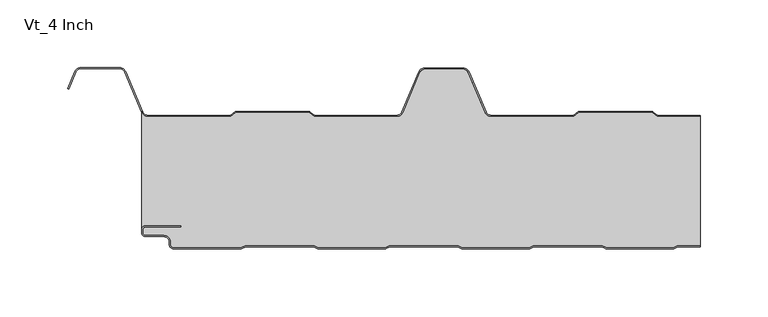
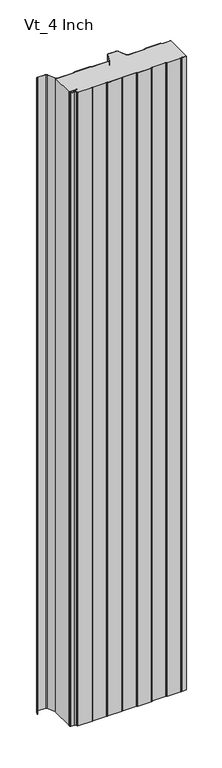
"""IFC4 building model written with IfcOpenShell, lengths in millimetres: plate geometry, AWIP_R18_CP_HR5_Vt_Roof Panel : Vt_4 Inch."""

from ifc_helpers import new_model, si_unit, point, frame, frame_2d, origin, origin_with_axes, place, context, project, spatial, polyline, circle_curve, trimmed, segment, composite_curve, outline, extrude, source, transform, mapped, element, save
from ifc_brep_helpers import plane_surface, cylinder_surface, revolved_surface, advanced_brep


def vt_4_inch_4c3a3e69(model_context):
    return source(origin(), model_context, "Body", "SolidModel", [
        extrude(outline(composite_curve([segment(trimmed(circle_curve(frame_2d((206.3079976, -1.0)), 2.5), [point((206.3079976, 1.5))], [point((205.316517, 1.2949872))], True, "CARTESIAN"), True, "CONTINUOUS"), segment(polyline([(205.316517, 1.2949872), (202.9264178, 0.2624164)]), True, "CONTINUOUS"), segment(trimmed(circle_curve(frame_2d((201.6573227, 3.2)), 3.2), [point((202.9264178, 0.2624164))], [point((201.6573227, 0.0))], False, "CARTESIAN"), True, "CONTINUOUS"), segment(polyline([(201.6573227, 0.0), (152.7426776, 0.0)]), True, "CONTINUOUS"), segment(trimmed(circle_curve(frame_2d((152.7426776, 3.2)), 3.2), [point((152.7426776, 0.0))], [point((151.4735825, 0.2624164))], False, "CARTESIAN"), True, "CONTINUOUS"), segment(polyline([(151.4735825, 0.2624164), (149.0834833, 1.2949872)]), True, "CONTINUOUS"), segment(trimmed(circle_curve(frame_2d((148.0920027, -1.0)), 2.5), [point((149.0834833, 1.2949872))], [point((148.0920027, 1.5))], True, "CARTESIAN"), True, "CONTINUOUS"), segment(polyline([(148.0920027, 1.5), (99.7079976, 1.5)]), True, "CONTINUOUS"), segment(trimmed(circle_curve(frame_2d((99.7079976, -1.0)), 2.5), [point((99.7079976, 1.5))], [point((98.716517, 1.2949872))], True, "CARTESIAN"), True, "CONTINUOUS"), segment(polyline([(98.716517, 1.2949872), (96.3264178, 0.2624164)]), True, "CONTINUOUS"), segment(trimmed(circle_curve(frame_2d((95.0573227, 3.2)), 3.2), [point((96.3264178, 0.2624164))], [point((95.0573227, 0.0))], False, "CARTESIAN"), True, "CONTINUOUS"), segment(polyline([(95.0573227, 0.0), (46.1426776, 0.0)]), True, "CONTINUOUS"), segment(trimmed(circle_curve(frame_2d((46.1426776, 3.2)), 3.2), [point((46.1426776, 0.0))], [point((44.8735825, 0.2624164))], False, "CARTESIAN"), True, "CONTINUOUS"), segment(polyline([(44.8735825, 0.2624164), (42.4834833, 1.2949872)]), True, "CONTINUOUS"), segment(trimmed(circle_curve(frame_2d((41.4920027, -1.0)), 2.5), [point((42.4834833, 1.2949872))], [point((41.4920027, 1.5))], True, "CARTESIAN"), True, "CONTINUOUS"), segment(polyline([(41.4920027, 1.5), (-6.8920024, 1.5)]), True, "CONTINUOUS"), segment(trimmed(circle_curve(frame_2d((-6.8920024, -1.0)), 2.5), [point((-6.8920024, 1.5))], [point((-7.883483, 1.2949872))], True, "CARTESIAN"), True, "CONTINUOUS"), segment(polyline([(-7.883483, 1.2949872), (-10.2735822, 0.2624164)]), True, "CONTINUOUS"), segment(trimmed(circle_curve(frame_2d((-11.5426773, 3.2)), 3.2), [point((-10.2735822, 0.2624164))], [point((-11.5426773, 0.0))], False, "CARTESIAN"), True, "CONTINUOUS"), segment(polyline([(-11.5426773, 0.0), (-60.4573224, 0.0)]), True, "CONTINUOUS"), segment(trimmed(circle_curve(frame_2d((-60.4573224, 3.2)), 3.2), [point((-60.4573224, 0.0))], [point((-61.7264175, 0.2624164))], False, "CARTESIAN"), True, "CONTINUOUS"), segment(polyline([(-61.7264175, 0.2624164), (-64.1165167, 1.2949872)]), True, "CONTINUOUS"), segment(trimmed(circle_curve(frame_2d((-65.1079973, -1.0)), 2.5), [point((-64.1165167, 1.2949872))], [point((-65.1079973, 1.5))], True, "CARTESIAN"), True, "CONTINUOUS"), segment(polyline([(-65.1079973, 1.5), (-113.4920024, 1.5)]), True, "CONTINUOUS"), segment(trimmed(circle_curve(frame_2d((-113.4920024, -1.0)), 2.5), [point((-113.4920024, 1.5))], [point((-114.483483, 1.2949872))], True, "CARTESIAN"), True, "CONTINUOUS"), segment(polyline([(-114.483483, 1.2949872), (-116.8735822, 0.2624164)]), True, "CONTINUOUS"), segment(trimmed(circle_curve(frame_2d((-118.1426773, 3.2)), 3.2), [point((-116.8735822, 0.2624164))], [point((-118.1426773, 0.0))], False, "CARTESIAN"), True, "CONTINUOUS"), segment(polyline([(-118.1426773, 0.0), (-167.8999998, 0.0)]), True, "CONTINUOUS"), segment(trimmed(circle_curve(frame_2d((-167.8999998, 3.0)), 3.0), [point((-167.8999998, 0.0))], [point((-170.8999998, 3.0))], False, "CARTESIAN"), True, "CONTINUOUS"), segment(polyline([(-170.8999998, 3.0), (-170.8999998, 5.0)]), True, "CONTINUOUS"), segment(trimmed(circle_curve(frame_2d((-174.8999998, 5.0)), 4.0), [point((-170.8999998, 5.0))], [point((-174.8999998, 9.0))], True, "CARTESIAN"), True, "CONTINUOUS"), segment(polyline([(-174.8999998, 9.0), (-188.41581, 9.0)]), True, "CONTINUOUS"), segment(trimmed(circle_curve(frame_2d((-188.41581, 12.0)), 3.0), [point((-188.41581, 9.0))], [point((-191.41581, 12.0))], False, "CARTESIAN"), True, "CONTINUOUS"), segment(polyline([(-191.41581, 12.0), (-191.41581, 14.0)]), True, "CONTINUOUS"), segment(trimmed(circle_curve(frame_2d((-188.41581, 14.0)), 3.0), [point((-191.41581, 14.0))], [point((-188.41581, 17.0))], False, "CARTESIAN"), True, "CONTINUOUS"), segment(polyline([(-188.41581, 17.0), (-162.474768, 17.0), (-162.474768, 16.2), (-188.41581, 16.2)]), True, "CONTINUOUS"), segment(trimmed(circle_curve(frame_2d((-188.41581, 14.0)), 2.2), [point((-188.41581, 16.2))], [point((-190.61581, 14.0))], True, "CARTESIAN"), True, "CONTINUOUS"), segment(polyline([(-190.61581, 14.0), (-190.61581, 12.0)]), True, "CONTINUOUS"), segment(trimmed(circle_curve(frame_2d((-188.41581, 12.0)), 2.2), [point((-190.61581, 12.0))], [point((-188.41581, 9.8))], True, "CARTESIAN"), True, "CONTINUOUS"), segment(polyline([(-188.41581, 9.8), (-174.8999998, 9.8)]), True, "CONTINUOUS"), segment(trimmed(circle_curve(frame_2d((-174.8999998, 5.0)), 4.8), [point((-174.8999998, 9.8))], [point((-170.0999998, 5.0))], False, "CARTESIAN"), True, "CONTINUOUS"), segment(polyline([(-170.0999998, 5.0), (-170.0999998, 3.0)]), True, "CONTINUOUS"), segment(trimmed(circle_curve(frame_2d((-167.8999998, 3.0)), 2.2), [point((-170.0999998, 3.0))], [point((-167.8999998, 0.8))], True, "CARTESIAN"), True, "CONTINUOUS"), segment(polyline([(-167.8999998, 0.8), (-118.1426773, 0.8)]), True, "CONTINUOUS"), segment(trimmed(circle_curve(frame_2d((-118.1426773, 3.2)), 2.4), [point((-118.1426773, 0.8))], [point((-117.190856, 0.9968123))], True, "CARTESIAN"), True, "CONTINUOUS"), segment(polyline([(-117.190856, 0.9968123), (-114.8007568, 2.0293831)]), True, "CONTINUOUS"), segment(trimmed(circle_curve(frame_2d((-113.4920024, -1.0)), 3.3), [point((-114.8007568, 2.0293831))], [point((-113.4920024, 2.3))], False, "CARTESIAN"), True, "CONTINUOUS"), segment(polyline([(-113.4920024, 2.3), (-65.1079973, 2.3)]), True, "CONTINUOUS"), segment(trimmed(circle_curve(frame_2d((-65.1079973, -1.0)), 3.3), [point((-65.1079973, 2.3))], [point((-63.7992429, 2.0293831))], False, "CARTESIAN"), True, "CONTINUOUS"), segment(polyline([(-63.7992429, 2.0293831), (-61.4091437, 0.9968123)]), True, "CONTINUOUS"), segment(trimmed(circle_curve(frame_2d((-60.4573224, 3.2)), 2.4), [point((-61.4091437, 0.9968123))], [point((-60.4573224, 0.8))], True, "CARTESIAN"), True, "CONTINUOUS"), segment(polyline([(-60.4573224, 0.8), (-11.5426773, 0.8)]), True, "CONTINUOUS"), segment(trimmed(circle_curve(frame_2d((-11.5426773, 3.2)), 2.4), [point((-11.5426773, 0.8))], [point((-10.590856, 0.9968123))], True, "CARTESIAN"), True, "CONTINUOUS"), segment(polyline([(-10.590856, 0.9968123), (-8.2007568, 2.0293831)]), True, "CONTINUOUS"), segment(trimmed(circle_curve(frame_2d((-6.8920024, -1.0)), 3.3), [point((-8.2007568, 2.0293831))], [point((-6.8920024, 2.3))], False, "CARTESIAN"), True, "CONTINUOUS"), segment(polyline([(-6.8920024, 2.3), (41.4920027, 2.3)]), True, "CONTINUOUS"), segment(trimmed(circle_curve(frame_2d((41.4920027, -1.0)), 3.3), [point((41.4920027, 2.3))], [point((42.8007571, 2.0293831))], False, "CARTESIAN"), True, "CONTINUOUS"), segment(polyline([(42.8007571, 2.0293831), (45.1908563, 0.9968123)]), True, "CONTINUOUS"), segment(trimmed(circle_curve(frame_2d((46.1426776, 3.2)), 2.4), [point((45.1908563, 0.9968123))], [point((46.1426776, 0.8))], True, "CARTESIAN"), True, "CONTINUOUS"), segment(polyline([(46.1426776, 0.8), (95.0573227, 0.8)]), True, "CONTINUOUS"), segment(trimmed(circle_curve(frame_2d((95.0573227, 3.2)), 2.4), [point((95.0573227, 0.8))], [point((96.009144, 0.9968123))], True, "CARTESIAN"), True, "CONTINUOUS"), segment(polyline([(96.009144, 0.9968123), (98.3992432, 2.0293831)]), True, "CONTINUOUS"), segment(trimmed(circle_curve(frame_2d((99.7079976, -1.0)), 3.3), [point((98.3992432, 2.0293831))], [point((99.7079976, 2.3))], False, "CARTESIAN"), True, "CONTINUOUS"), segment(polyline([(99.7079976, 2.3), (148.0920027, 2.3)]), True, "CONTINUOUS"), segment(trimmed(circle_curve(frame_2d((148.0920027, -1.0)), 3.3), [point((148.0920027, 2.3))], [point((149.4007571, 2.0293831))], False, "CARTESIAN"), True, "CONTINUOUS"), segment(polyline([(149.4007571, 2.0293831), (151.7908563, 0.9968123)]), True, "CONTINUOUS"), segment(trimmed(circle_curve(frame_2d((152.7426776, 3.2)), 2.4), [point((151.7908563, 0.9968123))], [point((152.7426776, 0.8))], True, "CARTESIAN"), True, "CONTINUOUS"), segment(polyline([(152.7426776, 0.8), (201.6573227, 0.8)]), True, "CONTINUOUS"), segment(trimmed(circle_curve(frame_2d((201.6573227, 3.2)), 2.4), [point((201.6573227, 0.8))], [point((202.609144, 0.9968123))], True, "CARTESIAN"), True, "CONTINUOUS"), segment(polyline([(202.609144, 0.9968123), (204.9992432, 2.0293831)]), True, "CONTINUOUS"), segment(trimmed(circle_curve(frame_2d((206.3079976, -1.0)), 3.3), [point((204.9992432, 2.0293831))], [point((206.3079976, 2.3))], False, "CARTESIAN"), True, "CONTINUOUS"), segment(polyline([(206.3079976, 2.3), (221.9999998, 2.3), (221.9999998, 1.5), (206.3079976, 1.5)]), True, "CONTINUOUS")], self_intersect=False)), origin_with_axes(), (0.0, 0.0, 1.0), 2400.0),
        advanced_brep(
        [(-65.1249438, 2.3, 2400.0), (-113.508949, 2.3, 2400.0), (-113.508949, 2.3, 0.0), (-65.1249438, 2.3, 0.0), (190.4999573, 98.015881, 0.0), (190.4999573, 98.015881, 2400.0), (221.9999998, 98.015881, 2400.0), (221.9999998, 98.015881, 0.0), (189.7385671, 98.2621803, 2400.0), (189.7385671, 98.2621803, 0.0), (186.226433, 100.8000003, 2400.0), (186.226433, 100.8000003, 0.0), (132.0235518, 100.8000003, 2400.0), (132.0235518, 100.8000003, 0.0), (128.5114178, 98.2621802, 2400.0), (128.5114178, 98.2621802, 0.0), (127.7500279, 98.015881, 2400.0), (127.7500279, 98.015881, 0.0), (66.901273, 98.015881, 2400.0), (66.901273, 98.015881, 0.0), (62.4828367, 100.940402, 2400.0), (62.4828367, 100.940402, 0.0), (49.967106, 130.4261781, 2400.0), (49.967106, 130.4261781, 0.0), (46.1009743, 132.9851339, 2400.0), (46.1009743, 132.9851339, 0.0), (18.399026, 132.9851339, 2400.0), (14.5328944, 130.4261781, 2400.0), (2.0171635, 100.9404018, 2400.0), (-2.4012727, 98.0158809, 2400.0), (-63.2500233, 98.0158809, 2400.0), (-64.0114131, 98.26218, 2400.0), (-67.5235476, 100.8000003, 2400.0), (-121.7264279, 100.8000003, 2400.0), (-125.2385625, 98.2621799, 2400.0), (-125.9999524, 98.0158808, 2400.0), (-186.7838692, 98.0158808, 2400.0), (-191.4327566, 101.6209553, 2400.0), (-191.4327566, 14.0, 2400.0), (-188.4327566, 17.0, 2400.0), (-162.4917146, 17.0, 2400.0), (-162.4917146, 16.2, 2400.0), (-188.4327566, 16.2, 2400.0), (-190.6327566, 14.0, 2400.0), (-190.6327566, 12.0, 2400.0), (-188.4327566, 9.8, 2400.0), (-174.9169464, 9.8, 2400.0), (-170.1169464, 5.0, 2400.0), (-170.1169464, 3.0, 2400.0), (-167.9169464, 0.8, 2400.0), (-118.1596239, 0.8, 2400.0), (-117.2078025, 0.9968123, 2400.0), (-114.8177033, 2.0293831, 2400.0), (-63.8161895, 2.0293831, 2400.0), (-61.4260903, 0.9968123, 2400.0), (-60.474269, 0.8, 2400.0), (-11.5596239, 0.8, 2400.0), (-10.6078025, 0.9968123, 2400.0), (-8.2177033, 2.0293831, 2400.0), (-6.908949, 2.3, 2400.0), (41.4750562, 2.3, 2400.0), (42.7838105, 2.0293831, 2400.0), (45.1739097, 0.9968123, 2400.0), (46.125731, 0.8, 2400.0), (95.0403761, 0.8, 2400.0), (95.9921975, 0.9968123, 2400.0), (98.3822967, 2.0293831, 2400.0), (99.691051, 2.3, 2400.0), (148.0750562, 2.3, 2400.0), (149.3838105, 2.0293831, 2400.0), (151.7739097, 0.9968123, 2400.0), (152.725731, 0.8, 2400.0), (201.6403761, 0.8, 2400.0), (202.5921975, 0.9968123, 2400.0), (204.9822967, 2.0293831, 2400.0), (206.291051, 2.3, 2400.0), (221.9999998, 2.3, 2400.0), (221.9999998, 2.3, 0.0), (18.399026, 132.9851339, 0.0), (14.5328944, 130.4261781, 0.0), (2.0171635, 100.9404018, 0.0), (-2.4012727, 98.0158809, 0.0), (-63.2500233, 98.0158809, 0.0), (-64.0114131, 98.26218, 0.0), (-67.5235476, 100.8000003, 0.0), (-121.7264279, 100.8000003, 0.0), (-125.2385625, 98.2621799, 0.0), (-125.9999524, 98.0158808, 0.0), (-186.7838692, 98.0158808, 0.0), (-191.4327566, 101.6209553, 0.0), (-191.4327566, 14.0, 0.0), (-188.4327566, 17.0, 0.0), (-162.4917146, 17.0, 0.0), (-162.4917146, 16.2, 0.0), (-188.4327566, 16.2, 0.0), (-190.6327566, 14.0, 0.0), (-190.6327566, 12.0, 0.0), (-188.4327566, 9.8, 0.0), (-174.9169464, 9.8, 0.0), (-170.1169464, 5.0, 0.0), (-170.1169464, 3.0, 0.0), (-167.9169464, 0.8, 0.0), (-118.1596239, 0.8, 0.0), (-117.2078025, 0.9968123, 0.0), (-114.8177033, 2.0293831, 0.0), (-63.8161895, 2.0293831, 0.0), (-61.4260903, 0.9968123, 0.0), (-60.474269, 0.8, 0.0), (-11.5596239, 0.8, 0.0), (-10.6078025, 0.9968123, 0.0), (-8.2177033, 2.0293831, 0.0), (-6.908949, 2.3, 0.0), (41.4750562, 2.3, 0.0), (42.7838105, 2.0293831, 0.0), (45.1739097, 0.9968123, 0.0), (46.125731, 0.8, 0.0), (95.0403761, 0.8, 0.0), (95.9921975, 0.9968123, 0.0), (206.291051, 2.3, 0.0), (204.9822967, 2.0293831, 0.0), (202.5921975, 0.9968123, 0.0), (201.6403761, 0.8, 0.0), (152.725731, 0.8, 0.0), (151.7739097, 0.9968123, 0.0), (149.3838105, 2.0293831, 0.0), (148.0750562, 2.3, 0.0), (99.691051, 2.3, 0.0), (98.3822967, 2.0293831, 0.0)],
        [
            (0, 1),
            (1, 2),
            (2, 3),
            (3, 0),
            (4, 5),
            (5, 6),
            (6, 7),
            (7, 4),
            (8, 5, circle_curve(frame((190.4999573, 99.3158817, 2400.0), z_axis=(0.0, 0.0, 1.0), x_axis=(1.0, 0.0, 0.0)), 1.3000007)),
            (4, 9, circle_curve(frame((190.4999573, 99.3158817, 0.0), z_axis=(0.0, 0.0, -1.0), x_axis=(1.0, 0.0, 0.0)), 1.3000007)),
            (9, 8),
            (10, 8),
            (9, 11),
            (11, 10),
            (12, 10),
            (11, 13),
            (13, 12),
            (14, 12),
            (13, 15),
            (15, 14),
            (16, 14, circle_curve(frame((127.7500279, 99.315881, 2400.0), z_axis=(0.0, 0.0, 1.0), x_axis=(1.0, 0.0, 0.0)), 1.3)),
            (15, 17, circle_curve(frame((127.7500279, 99.315881, 0.0), z_axis=(0.0, 0.0, -1.0), x_axis=(1.0, 0.0, 0.0)), 1.3)),
            (17, 16),
            (18, 16),
            (17, 19),
            (19, 18),
            (20, 18, circle_curve(frame((66.901273, 102.8158812, 2400.0), z_axis=(0.0, 0.0, 1.0), x_axis=(1.0, 0.0, 0.0)), 4.8000002)),
            (19, 21, circle_curve(frame((66.901273, 102.8158812, 0.0), z_axis=(0.0, 0.0, -1.0), x_axis=(1.0, 0.0, 0.0)), 4.8000002)),
            (21, 20),
            (22, 20),
            (21, 23),
            (23, 22),
            (24, 22, circle_curve(frame((46.1009743, 128.7851339, 2400.0), z_axis=(0.0, 0.0, -1.0), x_axis=(1.0, 0.0, 0.0)), 4.2)),
            (23, 25, circle_curve(frame((46.1009743, 128.7851339, 0.0), z_axis=(0.0, 0.0, 1.0), x_axis=(1.0, 0.0, 0.0)), 4.2)),
            (25, 24),
            (24, 26),
            (26, 27, circle_curve(frame((18.399026, 128.7851339, 2400.0), z_axis=(0.0, 0.0, 1.0), x_axis=(1.0, 0.0, 0.0)), 4.2)),
            (27, 28),
            (28, 29, circle_curve(frame((-2.4012727, 102.8158809, 2400.0), z_axis=(0.0, 0.0, -1.0), x_axis=(1.0, 0.0, 0.0)), 4.8000001)),
            (29, 30),
            (30, 31, circle_curve(frame((-63.2500233, 99.3158809, 2400.0), z_axis=(0.0, 0.0, -1.0), x_axis=(1.0, 0.0, 0.0)), 1.3)),
            (31, 32),
            (32, 33),
            (33, 34),
            (34, 35, circle_curve(frame((-125.9999524, 99.3158808, 2400.0), z_axis=(0.0, 0.0, -1.0), x_axis=(1.0, 0.0, 0.0)), 1.3)),
            (35, 36),
            (36, 37, circle_curve(frame((-186.7838692, 102.8158808, 2400.0), z_axis=(0.0, 0.0, -1.0), x_axis=(1.0, 0.0, 0.0)), 4.8)),
            (37, 38),
            (38, 39, circle_curve(frame((-188.4327566, 14.0, 2400.0), z_axis=(0.0, 0.0, -1.0), x_axis=(1.0, 0.0, 0.0)), 3.0)),
            (39, 40),
            (40, 41),
            (41, 42),
            (42, 43, circle_curve(frame((-188.4327566, 14.0, 2400.0), z_axis=(0.0, 0.0, 1.0), x_axis=(1.0, 0.0, 0.0)), 2.2)),
            (43, 44),
            (44, 45, circle_curve(frame((-188.4327566, 12.0, 2400.0), z_axis=(0.0, 0.0, 1.0), x_axis=(1.0, 0.0, 0.0)), 2.2)),
            (45, 46),
            (46, 47, circle_curve(frame((-174.9169464, 5.0, 2400.0), z_axis=(0.0, 0.0, -1.0), x_axis=(1.0, 0.0, 0.0)), 4.8)),
            (47, 48),
            (48, 49, circle_curve(frame((-167.9169464, 3.0, 2400.0), z_axis=(0.0, 0.0, 1.0), x_axis=(1.0, 0.0, 0.0)), 2.2)),
            (49, 50),
            (50, 51, circle_curve(frame((-118.1596239, 3.2, 2400.0), z_axis=(0.0, 0.0, 1.0), x_axis=(1.0, 0.0, 0.0)), 2.4)),
            (51, 52),
            (52, 1, circle_curve(frame((-113.508949, -1.0, 2400.0), z_axis=(0.0, 0.0, -1.0), x_axis=(1.0, 0.0, 0.0)), 3.3)),
            (0, 53, circle_curve(frame((-65.1249438, -1.0, 2400.0), z_axis=(0.0, 0.0, -1.0), x_axis=(1.0, 0.0, 0.0)), 3.3)),
            (53, 54),
            (54, 55, circle_curve(frame((-60.474269, 3.2, 2400.0), z_axis=(0.0, 0.0, 1.0), x_axis=(1.0, 0.0, 0.0)), 2.4)),
            (55, 56),
            (56, 57, circle_curve(frame((-11.5596239, 3.2, 2400.0), z_axis=(0.0, 0.0, 1.0), x_axis=(1.0, 0.0, 0.0)), 2.4)),
            (57, 58),
            (58, 59, circle_curve(frame((-6.908949, -1.0, 2400.0), z_axis=(0.0, 0.0, -1.0), x_axis=(1.0, 0.0, 0.0)), 3.3)),
            (59, 60),
            (60, 61, circle_curve(frame((41.4750562, -1.0, 2400.0), z_axis=(0.0, 0.0, -1.0), x_axis=(1.0, 0.0, 0.0)), 3.3)),
            (61, 62),
            (62, 63, circle_curve(frame((46.125731, 3.2, 2400.0), z_axis=(0.0, 0.0, 1.0), x_axis=(1.0, 0.0, 0.0)), 2.4)),
            (63, 64),
            (64, 65, circle_curve(frame((95.0403761, 3.2, 2400.0), z_axis=(0.0, 0.0, 1.0), x_axis=(1.0, 0.0, 0.0)), 2.4)),
            (65, 66),
            (66, 67, circle_curve(frame((99.691051, -1.0, 2400.0), z_axis=(0.0, 0.0, -1.0), x_axis=(1.0, 0.0, 0.0)), 3.3)),
            (67, 68),
            (68, 69, circle_curve(frame((148.0750562, -1.0, 2400.0), z_axis=(0.0, 0.0, -1.0), x_axis=(1.0, 0.0, 0.0)), 3.3)),
            (69, 70),
            (70, 71, circle_curve(frame((152.725731, 3.2, 2400.0), z_axis=(0.0, 0.0, 1.0), x_axis=(1.0, 0.0, 0.0)), 2.4)),
            (71, 72),
            (72, 73, circle_curve(frame((201.6403761, 3.2, 2400.0), z_axis=(0.0, 0.0, 1.0), x_axis=(1.0, 0.0, 0.0)), 2.4)),
            (73, 74),
            (74, 75, circle_curve(frame((206.291051, -1.0, 2400.0), z_axis=(0.0, 0.0, -1.0), x_axis=(1.0, 0.0, 0.0)), 3.3)),
            (75, 76),
            (76, 6),
            (76, 77),
            (77, 7),
            (26, 78),
            (78, 79, circle_curve(frame((18.399026, 128.7851339, 0.0), z_axis=(0.0, 0.0, 1.0), x_axis=(1.0, 0.0, 0.0)), 4.2)),
            (79, 27),
            (79, 80),
            (80, 28),
            (80, 81, circle_curve(frame((-2.4012727, 102.8158809, 0.0), z_axis=(0.0, 0.0, -1.0), x_axis=(1.0, 0.0, 0.0)), 4.8000001)),
            (81, 29),
            (81, 82),
            (82, 30),
            (82, 83, circle_curve(frame((-63.2500233, 99.3158809, 0.0), z_axis=(0.0, 0.0, -1.0), x_axis=(1.0, 0.0, 0.0)), 1.3)),
            (83, 31),
            (83, 84),
            (84, 32),
            (84, 85),
            (85, 33),
            (85, 86),
            (86, 34),
            (86, 87, circle_curve(frame((-125.9999524, 99.3158808, 0.0), z_axis=(0.0, 0.0, -1.0), x_axis=(1.0, 0.0, 0.0)), 1.3)),
            (87, 35),
            (87, 88),
            (88, 36),
            (88, 89, circle_curve(frame((-186.7838692, 102.8158808, 0.0), z_axis=(0.0, 0.0, -1.0), x_axis=(1.0, 0.0, 0.0)), 4.8)),
            (89, 37),
            (89, 90),
            (90, 38),
            (90, 91, circle_curve(frame((-188.4327566, 14.0, 0.0), z_axis=(0.0, 0.0, -1.0), x_axis=(1.0, 0.0, 0.0)), 3.0)),
            (91, 39),
            (91, 92),
            (92, 40),
            (92, 93),
            (93, 41),
            (93, 94),
            (94, 42),
            (94, 95, circle_curve(frame((-188.4327566, 14.0, 0.0), z_axis=(0.0, 0.0, 1.0), x_axis=(1.0, 0.0, 0.0)), 2.2)),
            (95, 43),
            (95, 96),
            (96, 44),
            (96, 97, circle_curve(frame((-188.4327566, 12.0, 0.0), z_axis=(0.0, 0.0, 1.0), x_axis=(1.0, 0.0, 0.0)), 2.2)),
            (97, 45),
            (97, 98),
            (98, 46),
            (98, 99, circle_curve(frame((-174.9169464, 5.0, 0.0), z_axis=(0.0, 0.0, -1.0), x_axis=(1.0, 0.0, 0.0)), 4.8)),
            (99, 47),
            (99, 100),
            (100, 48),
            (100, 101, circle_curve(frame((-167.9169464, 3.0, 0.0), z_axis=(0.0, 0.0, 1.0), x_axis=(1.0, 0.0, 0.0)), 2.2)),
            (101, 49),
            (101, 102),
            (102, 50),
            (102, 103, circle_curve(frame((-118.1596239, 3.2, 0.0), z_axis=(0.0, 0.0, 1.0), x_axis=(1.0, 0.0, 0.0)), 2.4)),
            (103, 51),
            (103, 104),
            (104, 52),
            (104, 2, circle_curve(frame((-113.508949, -1.0, 0.0), z_axis=(0.0, 0.0, -1.0), x_axis=(1.0, 0.0, 0.0)), 3.3)),
            (3, 105, circle_curve(frame((-65.1249438, -1.0, 0.0), z_axis=(0.0, 0.0, -1.0), x_axis=(1.0, 0.0, 0.0)), 3.3)),
            (105, 53),
            (105, 106),
            (106, 54),
            (106, 107, circle_curve(frame((-60.474269, 3.2, 0.0), z_axis=(0.0, 0.0, 1.0), x_axis=(1.0, 0.0, 0.0)), 2.4)),
            (107, 55),
            (107, 108),
            (108, 56),
            (108, 109, circle_curve(frame((-11.5596239, 3.2, 0.0), z_axis=(0.0, 0.0, 1.0), x_axis=(1.0, 0.0, 0.0)), 2.4)),
            (109, 57),
            (109, 110),
            (110, 58),
            (110, 111, circle_curve(frame((-6.908949, -1.0, 0.0), z_axis=(0.0, 0.0, -1.0), x_axis=(1.0, 0.0, 0.0)), 3.3)),
            (111, 59),
            (111, 112),
            (112, 60),
            (112, 113, circle_curve(frame((41.4750562, -1.0, 0.0), z_axis=(0.0, 0.0, -1.0), x_axis=(1.0, 0.0, 0.0)), 3.3)),
            (113, 61),
            (113, 114),
            (114, 62),
            (114, 115, circle_curve(frame((46.125731, 3.2, 0.0), z_axis=(0.0, 0.0, 1.0), x_axis=(1.0, 0.0, 0.0)), 2.4)),
            (115, 63),
            (115, 116),
            (116, 64),
            (116, 117, circle_curve(frame((95.0403761, 3.2, 0.0), z_axis=(0.0, 0.0, 1.0), x_axis=(1.0, 0.0, 0.0)), 2.4)),
            (117, 65),
            (77, 118),
            (118, 119, circle_curve(frame((206.291051, -1.0, 0.0), z_axis=(0.0, 0.0, 1.0), x_axis=(1.0, 0.0, 0.0)), 3.3)),
            (119, 120),
            (120, 121, circle_curve(frame((201.6403761, 3.2, 0.0), z_axis=(0.0, 0.0, -1.0), x_axis=(1.0, 0.0, 0.0)), 2.4)),
            (121, 122),
            (122, 123, circle_curve(frame((152.725731, 3.2, 0.0), z_axis=(0.0, 0.0, -1.0), x_axis=(1.0, 0.0, 0.0)), 2.4)),
            (123, 124),
            (124, 125, circle_curve(frame((148.0750562, -1.0, 0.0), z_axis=(0.0, 0.0, 1.0), x_axis=(1.0, 0.0, 0.0)), 3.3)),
            (125, 126),
            (126, 127, circle_curve(frame((99.691051, -1.0, 0.0), z_axis=(0.0, 0.0, 1.0), x_axis=(1.0, 0.0, 0.0)), 3.3)),
            (127, 117),
            (78, 25),
            (127, 66),
            (126, 67),
            (125, 68),
            (124, 69),
            (123, 70),
            (122, 71),
            (121, 72),
            (120, 73),
            (119, 74),
            (118, 75),
        ],
        [
            plane_surface(frame((-113.508949, 2.3, 2400.0), z_axis=(0.0, -1.0, 0.0), x_axis=(0.0, 0.0, -1.0))),
            plane_surface(frame((251.3487273, 98.015881, 2400.0), z_axis=(0.0, 1.0, 0.0), x_axis=(0.0, 0.0, -1.0))),
            revolved_surface(polyline([(191.799958, 99.3158817, 0.0), (191.799958, 99.3158817, 2400.0)]), (190.4999573, 99.3158817, 2400.0), (0.0, 0.0, -1.0)),
            plane_surface(frame((189.7385671, 98.2621803, 2400.0), z_axis=(0.5856844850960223, 0.8105391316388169, 0.0), x_axis=(0.0, 0.0, -1.0))),
            plane_surface(frame((186.226433, 100.8000003, 2400.0), z_axis=(0.0, 1.0, 0.0), x_axis=(0.0, 0.0, -1.0))),
            plane_surface(frame((132.0235518, 100.8000003, 2400.0), z_axis=(-0.5856845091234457, 0.8105391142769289, 0.0), x_axis=(0.0, 0.0, -1.0))),
            revolved_surface(polyline([(129.0500279, 99.315881, 0.0), (129.0500279, 99.315881, 2400.0)]), (127.7500279, 99.315881, 2400.0), (0.0, 0.0, -1.0)),
            plane_surface(frame((127.7500279, 98.015881, 2400.0), z_axis=(0.0, 1.0, 0.0), x_axis=(0.0, 0.0, -1.0))),
            revolved_surface(polyline([(71.7012732, 102.8158812, 0.0), (71.7012732, 102.8158812, 2400.0)]), (66.901273, 102.8158812, 2400.0), (0.0, 0.0, -1.0)),
            plane_surface(frame((62.4828367, 100.940402, 2400.0), z_axis=(0.920507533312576, 0.3907248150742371, 0.0), x_axis=(0.0, 0.0, -1.0))),
            cylinder_surface(frame((46.1009743, 128.7851339, 2400.0), z_axis=(0.0, 0.0, 1.0), x_axis=(1.0, 0.0, 0.0)), 4.2),
            plane_surface(frame((286.0000002, 0.8, 2400.0), z_axis=(0.0, 0.0, 1.0), x_axis=(0.0, 1.0, 0.0))),
            plane_surface(frame((221.9999998, 166.6, 2400.0), z_axis=(1.0, 0.0, 0.0), x_axis=(0.0, 0.0, -1.0))),
            cylinder_surface(frame((18.399026, 128.7851339, 2400.0), z_axis=(0.0, 0.0, 1.0), x_axis=(1.0, 0.0, 0.0)), 4.2),
            plane_surface(frame((14.5328944, 130.4261781, 2400.0), z_axis=(-0.9205075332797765, 0.39072481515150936, 0.0), x_axis=(0.0, 0.0, -1.0))),
            revolved_surface(polyline([(2.3987274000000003, 102.8158809, 0.0), (2.3987274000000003, 102.8158809, 2400.0)]), (-2.4012727, 102.8158809, 2400.0), (0.0, 0.0, -1.0)),
            plane_surface(frame((-2.4012727, 98.0158809, 2400.0), z_axis=(0.0, 1.0, 0.0), x_axis=(0.0, 0.0, -1.0))),
            revolved_surface(polyline([(-61.950023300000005, 99.3158809, 0.0), (-61.950023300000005, 99.3158809, 2400.0)]), (-63.2500233, 99.3158809, 2400.0), (0.0, 0.0, -1.0)),
            plane_surface(frame((-64.0114131, 98.26218, 2400.0), z_axis=(0.5856844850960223, 0.8105391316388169, 0.0), x_axis=(0.0, 0.0, -1.0))),
            plane_surface(frame((-67.5235476, 100.8000003, 2400.0), z_axis=(0.0, 1.0, 0.0), x_axis=(0.0, 0.0, -1.0))),
            plane_surface(frame((-121.7264279, 100.8000003, 2400.0), z_axis=(-0.5856844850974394, 0.8105391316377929, 0.0), x_axis=(0.0, 0.0, -1.0))),
            revolved_surface(polyline([(-124.6999524, 99.3158808, 0.0), (-124.6999524, 99.3158808, 2400.0)]), (-125.9999524, 99.3158808, 2400.0), (0.0, 0.0, -1.0)),
            plane_surface(frame((-125.9999524, 98.0158808, 2400.0), z_axis=(0.0, 1.0, 0.0), x_axis=(0.0, 0.0, -1.0))),
            revolved_surface(polyline([(-181.9838692, 102.8158808, 0.0), (-181.9838692, 102.8158808, 2400.0)]), (-186.7838692, 102.8158808, 2400.0), (0.0, 0.0, -1.0)),
            plane_surface(frame((-191.4327566, 101.6209553, 2400.0), z_axis=(-1.0, 0.0, 0.0), x_axis=(0.0, 0.0, -1.0))),
            revolved_surface(polyline([(-185.4327566, 14.0, 0.0), (-185.4327566, 14.0, 2400.0)]), (-188.4327566, 14.0, 2400.0), (0.0, 0.0, -1.0)),
            plane_surface(frame((-188.4327566, 17.0, 2400.0), z_axis=(0.0, -1.0, 0.0), x_axis=(0.0, 0.0, -1.0))),
            plane_surface(frame((-162.4917146, 17.0, 2400.0), z_axis=(-1.0, 0.0, 0.0), x_axis=(0.0, 0.0, -1.0))),
            plane_surface(frame((-162.4917146, 16.2, 2400.0), z_axis=(0.0, 1.0, 0.0), x_axis=(0.0, 0.0, -1.0))),
            cylinder_surface(frame((-188.4327566, 14.0, 2400.0), z_axis=(0.0, 0.0, 1.0), x_axis=(1.0, 0.0, 0.0)), 2.2),
            plane_surface(frame((-190.6327566, 14.0, 2400.0), z_axis=(-1.0, 0.0, 0.0), x_axis=(0.0, 0.0, -1.0))),
            cylinder_surface(frame((-188.4327566, 12.0, 2400.0), z_axis=(0.0, 0.0, 1.0), x_axis=(1.0, 0.0, 0.0)), 2.2),
            plane_surface(frame((-188.4327566, 9.8, 2400.0), z_axis=(0.0, -1.0, 0.0), x_axis=(0.0, 0.0, -1.0))),
            revolved_surface(polyline([(-170.1169464, 5.0, 0.0), (-170.1169464, 5.0, 2400.0)]), (-174.9169464, 5.0, 2400.0), (0.0, 0.0, -1.0)),
            plane_surface(frame((-170.1169464, 5.0, 2400.0), z_axis=(-1.0, 0.0, 0.0), x_axis=(0.0, 0.0, -1.0))),
            cylinder_surface(frame((-167.9169464, 3.0, 2400.0), z_axis=(0.0, 0.0, 1.0), x_axis=(1.0, 0.0, 0.0)), 2.2),
            plane_surface(frame((-167.9169464, 0.8, 2400.0), z_axis=(0.0, -1.0, 0.0), x_axis=(0.0, 0.0, -1.0))),
            cylinder_surface(frame((-118.1596239, 3.2, 2400.0), z_axis=(0.0, 0.0, 1.0), x_axis=(1.0, 0.0, 0.0)), 2.4),
            plane_surface(frame((-117.2078025, 0.9968123, 2400.0), z_axis=(0.3965922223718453, -0.9179948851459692, 0.0), x_axis=(0.0, 0.0, -1.0))),
            revolved_surface(polyline([(-110.208949, -1.0, 0.0), (-110.208949, -1.0, 2400.0)]), (-113.508949, -1.0, 2400.0), (0.0, 0.0, -1.0)),
            revolved_surface(polyline([(-61.8249438, -1.0, 0.0), (-61.8249438, -1.0, 2400.0)]), (-65.1249438, -1.0, 2400.0), (0.0, 0.0, -1.0)),
            plane_surface(frame((-63.8161895, 2.0293831, 2400.0), z_axis=(-0.396592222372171, -0.9179948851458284, 0.0), x_axis=(0.0, 0.0, -1.0))),
            cylinder_surface(frame((-60.474269, 3.2, 2400.0), z_axis=(0.0, 0.0, 1.0), x_axis=(1.0, 0.0, 0.0)), 2.4),
            plane_surface(frame((-60.474269, 0.8, 2400.0), z_axis=(0.0, -1.0, 0.0), x_axis=(0.0, 0.0, -1.0))),
            cylinder_surface(frame((-11.5596239, 3.2, 2400.0), z_axis=(0.0, 0.0, 1.0), x_axis=(1.0, 0.0, 0.0)), 2.4),
            plane_surface(frame((-10.6078025, 0.9968123, 2400.0), z_axis=(0.3965922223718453, -0.9179948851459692, 0.0), x_axis=(0.0, 0.0, -1.0))),
            revolved_surface(polyline([(-3.608949, -1.0, 0.0), (-3.608949, -1.0, 2400.0)]), (-6.908949, -1.0, 2400.0), (0.0, 0.0, -1.0)),
            plane_surface(frame((-6.908949, 2.3, 2400.0), z_axis=(0.0, -1.0, 0.0), x_axis=(0.0, 0.0, -1.0))),
            revolved_surface(polyline([(44.775056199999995, -1.0, 0.0), (44.775056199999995, -1.0, 2400.0)]), (41.4750562, -1.0, 2400.0), (0.0, 0.0, -1.0)),
            plane_surface(frame((42.7838105, 2.0293831, 2400.0), z_axis=(-0.396592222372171, -0.9179948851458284, 0.0), x_axis=(0.0, 0.0, -1.0))),
            cylinder_surface(frame((46.125731, 3.2, 2400.0), z_axis=(0.0, 0.0, 1.0), x_axis=(1.0, 0.0, 0.0)), 2.4),
            plane_surface(frame((46.125731, 0.8, 2400.0), z_axis=(0.0, -1.0, 0.0), x_axis=(0.0, 0.0, -1.0))),
            cylinder_surface(frame((95.0403761, 3.2, 2400.0), z_axis=(0.0, 0.0, 1.0), x_axis=(1.0, 0.0, 0.0)), 2.4),
            plane_surface(frame((286.0000002, 0.8, 0.0), z_axis=(0.0, 0.0, -1.0), x_axis=(0.0, 1.0, 0.0))),
            plane_surface(frame((46.1009743, 132.9851339, 2400.0), z_axis=(0.0, 1.0, 0.0), x_axis=(0.0, 0.0, -1.0))),
            plane_surface(frame((95.9921975, 0.9968123, 2400.0), z_axis=(0.3965922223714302, -0.9179948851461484, 0.0), x_axis=(0.0, 0.0, -1.0))),
            revolved_surface(polyline([(102.991051, -1.0, 0.0), (102.991051, -1.0, 2400.0)]), (99.691051, -1.0, 2400.0), (0.0, 0.0, -1.0)),
            plane_surface(frame((99.691051, 2.3, 2400.0), z_axis=(0.0, -1.0, 0.0), x_axis=(0.0, 0.0, -1.0))),
            revolved_surface(polyline([(151.37505620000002, -1.0, 0.0), (151.37505620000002, -1.0, 2400.0)]), (148.0750562, -1.0, 2400.0), (0.0, 0.0, -1.0)),
            plane_surface(frame((149.3838105, 2.0293831, 2400.0), z_axis=(-0.396592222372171, -0.9179948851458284, 0.0), x_axis=(0.0, 0.0, -1.0))),
            cylinder_surface(frame((152.725731, 3.2, 2400.0), z_axis=(0.0, 0.0, 1.0), x_axis=(1.0, 0.0, 0.0)), 2.4),
            plane_surface(frame((152.725731, 0.8, 2400.0), z_axis=(0.0, -1.0, 0.0), x_axis=(0.0, 0.0, -1.0))),
            cylinder_surface(frame((201.6403761, 3.2, 2400.0), z_axis=(0.0, 0.0, 1.0), x_axis=(1.0, 0.0, 0.0)), 2.4),
            plane_surface(frame((202.5921975, 0.9968123, 2400.0), z_axis=(0.3965922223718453, -0.9179948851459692, 0.0), x_axis=(0.0, 0.0, -1.0))),
            revolved_surface(polyline([(209.59105100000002, -1.0, 0.0), (209.59105100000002, -1.0, 2400.0)]), (206.291051, -1.0, 2400.0), (0.0, 0.0, -1.0)),
            plane_surface(frame((206.291051, 2.3, 2400.0), z_axis=(0.0, -1.0, 0.0), x_axis=(0.0, 0.0, -1.0))),
        ],
        [
            (0, [[1, 2, 3, 4]]),
            (1, [[5, 6, 7, 8]]),
            (2, [[9, -5, 10, 11]]),
            (3, [[12, -11, 13, 14]]),
            (4, [[15, -14, 16, 17]]),
            (5, [[18, -17, 19, 20]]),
            (6, [[21, -20, 22, 23]]),
            (7, [[24, -23, 25, 26]]),
            (8, [[27, -26, 28, 29]]),
            (9, [[30, -29, 31, 32]]),
            (10, [[33, -32, 34, 35]]),
            (11, [[36, 37, 38, 39, 40, 41, 42, 43, 44, 45, 46, 47, 48, 49, 50, 51, 52, 53, 54, 55, 56, 57, 58, 59, 60, 61, 62, 63, -1, 64, 65, 66, 67, 68, 69, 70, 71, 72, 73, 74, 75, 76, 77, 78, 79, 80, 81, 82, 83, 84, 85, 86, 87, 88, -6, -9, -12, -15, -18, -21, -24, -27, -30, -33]]),
            (12, [[-88, 89, 90, -7]]),
            (13, [[-37, 91, 92, 93]]),
            (14, [[-38, -93, 94, 95]]),
            (15, [[-39, -95, 96, 97]]),
            (16, [[-40, -97, 98, 99]]),
            (17, [[-41, -99, 100, 101]]),
            (18, [[-42, -101, 102, 103]]),
            (19, [[-43, -103, 104, 105]]),
            (20, [[-44, -105, 106, 107]]),
            (21, [[-45, -107, 108, 109]]),
            (22, [[-46, -109, 110, 111]]),
            (23, [[-47, -111, 112, 113]]),
            (24, [[-48, -113, 114, 115]]),
            (25, [[-49, -115, 116, 117]]),
            (26, [[-50, -117, 118, 119]]),
            (27, [[-51, -119, 120, 121]]),
            (28, [[-52, -121, 122, 123]]),
            (29, [[-53, -123, 124, 125]]),
            (30, [[-54, -125, 126, 127]]),
            (31, [[-55, -127, 128, 129]]),
            (32, [[-56, -129, 130, 131]]),
            (33, [[-57, -131, 132, 133]]),
            (34, [[-58, -133, 134, 135]]),
            (35, [[-59, -135, 136, 137]]),
            (36, [[-60, -137, 138, 139]]),
            (37, [[-61, -139, 140, 141]]),
            (38, [[-62, -141, 142, 143]]),
            (39, [[-63, -143, 144, -2]]),
            (40, [[-64, -4, 145, 146]]),
            (41, [[-65, -146, 147, 148]]),
            (42, [[-66, -148, 149, 150]]),
            (43, [[-67, -150, 151, 152]]),
            (44, [[-68, -152, 153, 154]]),
            (45, [[-69, -154, 155, 156]]),
            (46, [[-70, -156, 157, 158]]),
            (47, [[-71, -158, 159, 160]]),
            (48, [[-72, -160, 161, 162]]),
            (49, [[-73, -162, 163, 164]]),
            (50, [[-74, -164, 165, 166]]),
            (51, [[-75, -166, 167, 168]]),
            (52, [[-76, -168, 169, 170]]),
            (53, [[-34, -31, -28, -25, -22, -19, -16, -13, -10, -8, -90, 171, 172, 173, 174, 175, 176, 177, 178, 179, 180, 181, -169, -167, -165, -163, -161, -159, -157, -155, -153, -151, -149, -147, -145, -3, -144, -142, -140, -138, -136, -134, -132, -130, -128, -126, -124, -122, -120, -118, -116, -114, -112, -110, -108, -106, -104, -102, -100, -98, -96, -94, -92, 182]]),
            (54, [[-36, -35, -182, -91]]),
            (55, [[-77, -170, -181, 183]]),
            (56, [[-78, -183, -180, 184]]),
            (57, [[-79, -184, -179, 185]]),
            (58, [[-80, -185, -178, 186]]),
            (59, [[-81, -186, -177, 187]]),
            (60, [[-82, -187, -176, 188]]),
            (61, [[-83, -188, -175, 189]]),
            (62, [[-84, -189, -174, 190]]),
            (63, [[-85, -190, -173, 191]]),
            (64, [[-86, -191, -172, 192]]),
            (65, [[-192, -171, -89, -87]]),
        ],
    ),
        extrude(outline(composite_curve([segment(trimmed(circle_curve(frame_2d((190.4999573, 99.3158813)), 1.3000007), [point((190.4999573, 98.0158806))], [point((189.7385671, 98.2621799))], False, "CARTESIAN"), True, "CONTINUOUS"), segment(polyline([(189.7385671, 98.2621799), (186.226433, 100.7999999), (132.0235518, 100.7999999), (128.5114178, 98.2621798)]), True, "CONTINUOUS"), segment(trimmed(circle_curve(frame_2d((127.7500279, 99.3158806)), 1.3), [point((128.5114178, 98.2621798))], [point((127.7500279, 98.0158806))], False, "CARTESIAN"), True, "CONTINUOUS"), segment(polyline([(127.7500279, 98.0158806), (67.2538974, 98.0158806)]), True, "CONTINUOUS"), segment(trimmed(circle_curve(frame_2d((67.2538974, 102.8158808)), 4.8000002), [point((67.2538974, 98.0158806))], [point((62.835461, 100.9404017))], False, "CARTESIAN"), True, "CONTINUOUS"), segment(polyline([(62.835461, 100.9404017), (50.3066793, 130.4569246)]), True, "CONTINUOUS"), segment(trimmed(circle_curve(frame_2d((46.4405477, 128.8158803)), 4.2), [point((50.3066793, 130.4569246))], [point((46.4405477, 133.0158803))], True, "CARTESIAN"), True, "CONTINUOUS"), segment(polyline([(46.4405477, 133.0158803), (18.0594526, 133.0158803)]), True, "CONTINUOUS"), segment(trimmed(circle_curve(frame_2d((18.0594526, 128.8158803)), 4.2), [point((18.0594526, 133.0158803))], [point((14.193321, 130.4569246))], True, "CARTESIAN"), True, "CONTINUOUS"), segment(polyline([(14.193321, 130.4569246), (1.6645392, 100.9404014)]), True, "CONTINUOUS"), segment(trimmed(circle_curve(frame_2d((-2.7538971, 102.8158806)), 4.8000001), [point((1.6645392, 100.9404014))], [point((-2.7538971, 98.0158805))], False, "CARTESIAN"), True, "CONTINUOUS"), segment(polyline([(-2.7538971, 98.0158805), (-63.2500233, 98.0158805)]), True, "CONTINUOUS"), segment(trimmed(circle_curve(frame_2d((-63.2500233, 99.3158805)), 1.3), [point((-63.2500233, 98.0158805))], [point((-64.0114131, 98.2621796))], False, "CARTESIAN"), True, "CONTINUOUS"), segment(polyline([(-64.0114131, 98.2621796), (-67.5235476, 100.7999999), (-121.7264279, 100.7999999), (-125.2385625, 98.2621795)]), True, "CONTINUOUS"), segment(trimmed(circle_curve(frame_2d((-125.9999524, 99.3158804)), 1.3), [point((-125.2385625, 98.2621795))], [point((-125.9999524, 98.0158804))], False, "CARTESIAN"), True, "CONTINUOUS"), segment(polyline([(-125.9999524, 98.0158804), (-186.7838692, 98.0158804)]), True, "CONTINUOUS"), segment(trimmed(circle_curve(frame_2d((-186.7838692, 102.8158804)), 4.8), [point((-186.7838692, 98.0158804))], [point((-191.2023054, 100.9404013))], False, "CARTESIAN"), True, "CONTINUOUS"), segment(polyline([(-191.2023054, 100.9404013), (-203.9433207, 130.9569246)]), True, "CONTINUOUS"), segment(trimmed(circle_curve(frame_2d((-207.8094523, 129.3158804)), 4.2), [point((-203.9433207, 130.9569246))], [point((-207.8094523, 133.5158804))], True, "CARTESIAN"), True, "CONTINUOUS"), segment(polyline([(-207.8094523, 133.5158804), (-236.1905444, 133.5158804)]), True, "CONTINUOUS"), segment(trimmed(circle_curve(frame_2d((-236.1905444, 129.3158804)), 4.2), [point((-236.1905444, 133.5158804))], [point((-240.0566774, 130.9569214))], True, "CARTESIAN"), True, "CONTINUOUS"), segment(polyline([(-240.0566774, 130.9569214), (-245.4052666, 118.3561658), (-246.1423082, 118.6672483), (-240.7930837, 131.2695007)]), True, "CONTINUOUS"), segment(trimmed(circle_curve(frame_2d((-236.1905444, 129.3158804)), 5.0), [point((-240.7930837, 131.2695007))], [point((-236.1905444, 134.3158804))], False, "CARTESIAN"), True, "CONTINUOUS"), segment(polyline([(-236.1905444, 134.3158804), (-207.8094523, 134.3158804)]), True, "CONTINUOUS"), segment(trimmed(circle_curve(frame_2d((-207.8094523, 129.3158804)), 5.0), [point((-207.8094523, 134.3158804))], [point((-203.2069146, 131.2695045))], False, "CARTESIAN"), True, "CONTINUOUS"), segment(polyline([(-203.2069146, 131.2695045), (-190.4658994, 101.2529811)]), True, "CONTINUOUS"), segment(trimmed(circle_curve(frame_2d((-186.7838692, 102.8158804)), 4.0), [point((-190.4658994, 101.2529811))], [point((-186.7838692, 98.8158804))], True, "CARTESIAN"), True, "CONTINUOUS"), segment(polyline([(-186.7838692, 98.8158804), (-125.838209, 98.8158804), (-122.3785147, 101.3158083)]), True, "CONTINUOUS"), segment(trimmed(circle_curve(frame_2d((-121.499988, 100.0999996)), 1.5), [point((-122.3785147, 101.3158083))], [point((-121.499988, 101.5999996))], False, "CARTESIAN"), True, "CONTINUOUS"), segment(polyline([(-121.499988, 101.5999996), (-67.7509594, 101.5999996)]), True, "CONTINUOUS"), segment(trimmed(circle_curve(frame_2d((-67.749988, 100.0999999)), 1.5), [point((-67.7509594, 101.5999996))], [point((-66.8714613, 101.3158086))], False, "CARTESIAN"), True, "CONTINUOUS"), segment(polyline([(-66.8714613, 101.3158086), (-63.4117664, 98.8158805), (-2.7538971, 98.8158805)]), True, "CONTINUOUS"), segment(trimmed(circle_curve(frame_2d((-2.7538971, 102.8158806)), 4.0000001), [point((-2.7538971, 98.8158805))], [point((0.9281331, 101.2529813))], True, "CARTESIAN"), True, "CONTINUOUS"), segment(polyline([(0.9281331, 101.2529813), (13.456915, 130.7695044)]), True, "CONTINUOUS"), segment(trimmed(circle_curve(frame_2d((18.0594526, 128.8158803)), 5.0), [point((13.456915, 130.7695044))], [point((18.0594526, 133.8158803))], False, "CARTESIAN"), True, "CONTINUOUS"), segment(polyline([(18.0594526, 133.8158803), (46.4405477, 133.8158803)]), True, "CONTINUOUS"), segment(trimmed(circle_curve(frame_2d((46.4405477, 128.8158803)), 5.0), [point((46.4405477, 133.8158803))], [point((51.0430854, 130.7695044))], False, "CARTESIAN"), True, "CONTINUOUS"), segment(polyline([(51.0430854, 130.7695044), (63.5718668, 101.2529814)]), True, "CONTINUOUS"), segment(trimmed(circle_curve(frame_2d((67.2538974, 102.8158808)), 4.0000005), [point((63.5718668, 101.2529814))], [point((67.2538974, 98.8158803))], True, "CARTESIAN"), True, "CONTINUOUS"), segment(polyline([(67.2538974, 98.8158803), (127.9117708, 98.8158803), (131.3714658, 101.3158088)]), True, "CONTINUOUS"), segment(trimmed(circle_curve(frame_2d((132.2499926, 100.1000001)), 1.5000001), [point((131.3714658, 101.3158088))], [point((132.2499926, 101.6000002))], False, "CARTESIAN"), True, "CONTINUOUS"), segment(polyline([(132.2499926, 101.6000002), (185.9999926, 101.5999999)]), True, "CONTINUOUS"), segment(trimmed(circle_curve(frame_2d((185.9999926, 100.0999999)), 1.5), [point((185.9999926, 101.5999999))], [point((186.8785193, 101.3158087))], False, "CARTESIAN"), True, "CONTINUOUS"), segment(polyline([(186.8785193, 101.3158087), (190.3382142, 98.8158806), (221.9999998, 98.8158806), (221.9999998, 98.0158806), (190.4999573, 98.0158806)]), True, "CONTINUOUS")], self_intersect=False)), origin_with_axes(), (0.0, 0.0, 1.0), 2400.0),
    ])


if __name__ == "__main__":
    model = new_model("IFC4")
    model_context = context("Model", 3, world=origin())
    ifc_project = project(units=[si_unit("LENGTHUNIT", "METRE", prefix="MILLI")], contexts=[model_context])
    site = spatial("IfcSite", under=ifc_project)
    building = spatial("IfcBuilding", under=site)
    placement = place(None, origin())
    vt_4_inch_shape = vt_4_inch_4c3a3e69(model_context)
    element("IfcPlate", 1, ObjectType="AWIP_R18_CP_HR5_Vt_Roof Panel : Vt_4 Inch", at=placement, inside=building, context=model_context, shape_type="MappedRepresentation", body=[
        mapped(vt_4_inch_shape, transform((0.0, 0.0, 0.0), x_axis=(1.0, 0.0, 0.0), y_axis=(0.0, 1.0, 0.0), z_axis=(0.0, 0.0, 1.0))),
    ])
    save(model, "model.ifc")
